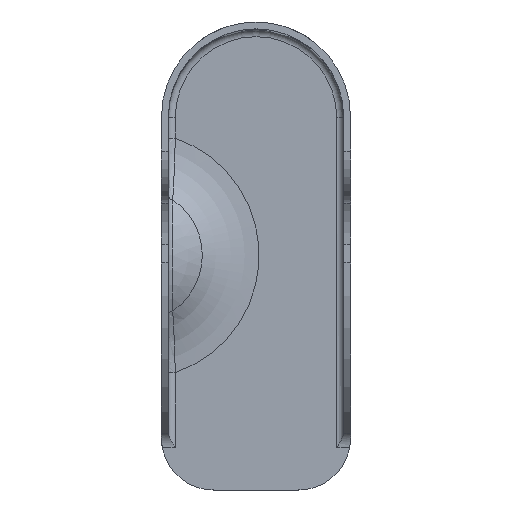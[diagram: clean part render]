
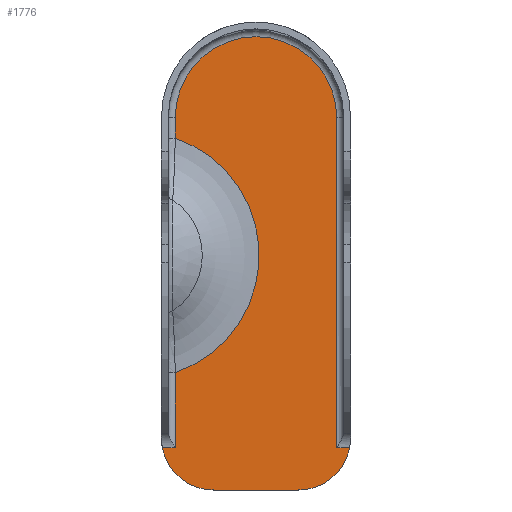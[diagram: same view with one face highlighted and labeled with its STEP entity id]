
A CAD part, top view. The second image highlights one B-rep face of the part: STEP entity #1776.
In plain terms, the highlighted planar face has unit normal (0, 0, 1).
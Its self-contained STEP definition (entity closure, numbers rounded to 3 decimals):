
#78=PLANE('',#1890);
#94=LINE('',#2584,#172);
#96=LINE('',#2672,#174);
#98=LINE('',#2691,#176);
#99=LINE('',#2698,#177);
#100=LINE('',#2700,#178);
#101=LINE('',#2704,#179);
#172=VECTOR('',#2047,10.);
#174=VECTOR('',#2065,10.);
#176=VECTOR('',#2077,10.);
#177=VECTOR('',#2088,10.);
#178=VECTOR('',#2089,10.);
#179=VECTOR('',#2092,10.);
#447=FACE_OUTER_BOUND('',#526,.T.);
#526=EDGE_LOOP('',(#1273,#1274,#1275,#1276,#1277,#1278,#1279,#1280,#1281,
#1282));
#671=CIRCLE('',#1884,23.4);
#673=CIRCLE('',#1889,35.906);
#674=CIRCLE('',#1891,15.);
#675=CIRCLE('',#1892,15.);
#737=VERTEX_POINT('',#2570);
#740=VERTEX_POINT('',#2575);
#745=VERTEX_POINT('',#2654);
#747=VERTEX_POINT('',#2668);
#749=VERTEX_POINT('',#2674);
#751=VERTEX_POINT('',#2680);
#753=VERTEX_POINT('',#2697);
#754=VERTEX_POINT('',#2699);
#755=VERTEX_POINT('',#2701);
#756=VERTEX_POINT('',#2703);
#949=EDGE_CURVE('',#740,#737,#94,.T.);
#961=EDGE_CURVE('',#745,#747,#96,.T.);
#964=EDGE_CURVE('',#747,#749,#671,.T.);
#967=EDGE_CURVE('',#749,#751,#98,.T.);
#969=EDGE_CURVE('',#737,#745,#673,.T.);
#970=EDGE_CURVE('',#751,#753,#99,.T.);
#971=EDGE_CURVE('',#754,#740,#100,.T.);
#972=EDGE_CURVE('',#754,#755,#674,.T.);
#973=EDGE_CURVE('',#755,#756,#101,.T.);
#974=EDGE_CURVE('',#756,#753,#675,.T.);
#1273=ORIENTED_EDGE('',*,*,#970,.F.);
#1274=ORIENTED_EDGE('',*,*,#967,.F.);
#1275=ORIENTED_EDGE('',*,*,#964,.F.);
#1276=ORIENTED_EDGE('',*,*,#961,.F.);
#1277=ORIENTED_EDGE('',*,*,#969,.F.);
#1278=ORIENTED_EDGE('',*,*,#949,.F.);
#1279=ORIENTED_EDGE('',*,*,#971,.F.);
#1280=ORIENTED_EDGE('',*,*,#972,.T.);
#1281=ORIENTED_EDGE('',*,*,#973,.T.);
#1282=ORIENTED_EDGE('',*,*,#974,.T.);
#1776=ADVANCED_FACE('',(#447),#78,.T.);
#1884=AXIS2_PLACEMENT_3D('',#2678,#2072,#2073);
#1889=AXIS2_PLACEMENT_3D('',#2695,#2084,#2085);
#1890=AXIS2_PLACEMENT_3D('',#2696,#2086,#2087);
#1891=AXIS2_PLACEMENT_3D('',#2702,#2090,#2091);
#1892=AXIS2_PLACEMENT_3D('',#2705,#2093,#2094);
#2047=DIRECTION('',(0.,1.,0.));
#2065=DIRECTION('',(0.,1.,0.));
#2072=DIRECTION('center_axis',(0.,0.,-1.));
#2073=DIRECTION('ref_axis',(0.,1.,0.));
#2077=DIRECTION('',(0.,-1.,0.));
#2084=DIRECTION('center_axis',(0.,0.,1.));
#2085=DIRECTION('ref_axis',(1.,0.,0.));
#2086=DIRECTION('center_axis',(0.,0.,1.));
#2087=DIRECTION('ref_axis',(1.,0.,0.));
#2088=DIRECTION('',(1.,0.,0.));
#2089=DIRECTION('',(1.,0.,0.));
#2090=DIRECTION('center_axis',(0.,0.,1.));
#2091=DIRECTION('ref_axis',(1.,0.,0.));
#2092=DIRECTION('',(1.,0.,0.));
#2093=DIRECTION('center_axis',(0.,0.,1.));
#2094=DIRECTION('ref_axis',(1.,0.,0.));
#2570=CARTESIAN_POINT('',(-23.4,-73.981,2.));
#2575=CARTESIAN_POINT('',(-23.4,-95.687,2.));
#2584=CARTESIAN_POINT('',(-23.4,-67.15,2.));
#2654=CARTESIAN_POINT('',(-23.4,-6.019,2.));
#2668=CARTESIAN_POINT('',(-23.4,0.,2.));
#2672=CARTESIAN_POINT('',(-23.4,-67.15,2.));
#2674=CARTESIAN_POINT('',(23.4,0.,2.));
#2678=CARTESIAN_POINT('Origin',(0.,0.,2.));
#2680=CARTESIAN_POINT('',(23.4,-95.687,2.));
#2691=CARTESIAN_POINT('',(23.4,-26.9,2.));
#2695=CARTESIAN_POINT('Origin',(-35.,-40.,2.));
#2696=CARTESIAN_POINT('Origin',(0.,-41.3,2.));
#2697=CARTESIAN_POINT('',(27.157,-95.687,2.));
#2698=CARTESIAN_POINT('',(12.7,-95.687,2.));
#2699=CARTESIAN_POINT('',(-27.157,-95.687,2.));
#2700=CARTESIAN_POINT('',(-13.7,-95.687,2.));
#2701=CARTESIAN_POINT('',(-12.4,-108.,2.));
#2702=CARTESIAN_POINT('Origin',(-12.4,-93.,2.));
#2703=CARTESIAN_POINT('',(12.4,-108.,2.));
#2704=CARTESIAN_POINT('',(-12.4,-108.,2.));
#2705=CARTESIAN_POINT('Origin',(12.4,-93.,2.));
